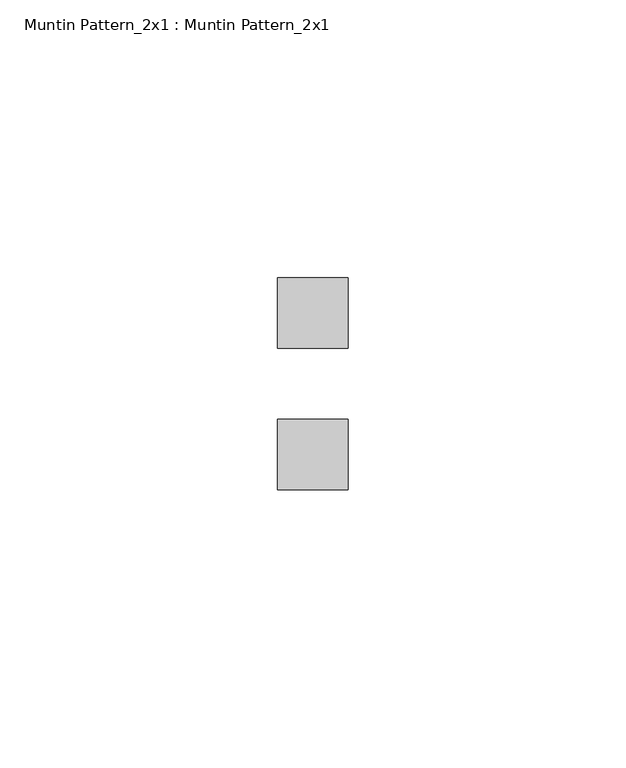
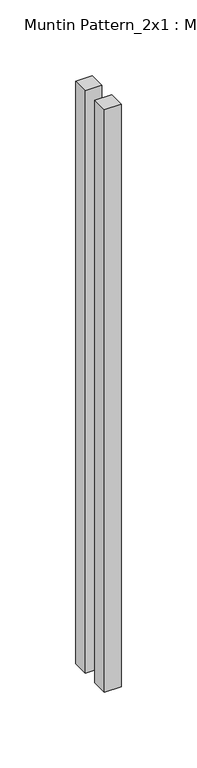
"""IFC4 building model written with IfcOpenShell, lengths in millimetres: proxy geometry, Muntin Pattern_2x1 : Muntin Pattern_2x1."""

from ifc_helpers import new_model, si_unit, origin, origin_with_axes, place, context, project, spatial, polyline, outline, extrude, source, transform, mapped, element, save


def muntin_pattern_2x1_muntin_pattern_2x1_0ce9f3d9(model_context):
    return source(origin(), model_context, "Body", "SweptSolid", [
        extrude(outline(polyline([(-6.35, 19.05), (6.35, 19.05), (6.35, 6.35), (-6.35, 6.35), (-6.35, 19.05)])), origin_with_axes(), (0.0, 0.0, 1.0), 469.9),
        extrude(outline(polyline([(-6.35, -6.35), (6.35, -6.35), (6.35, -19.05), (-6.35, -19.05), (-6.35, -6.35)])), origin_with_axes(), (0.0, 0.0, 1.0), 469.9),
    ])


if __name__ == "__main__":
    model = new_model("IFC4")
    model_context = context("Model", 3, world=origin())
    ifc_project = project(units=[si_unit("LENGTHUNIT", "METRE", prefix="MILLI")], contexts=[model_context])
    site = spatial("IfcSite", under=ifc_project)
    building = spatial("IfcBuilding", under=site)
    placement = place(None, origin())
    muntin_pattern_2x1_muntin_pattern_2x1_shape = muntin_pattern_2x1_muntin_pattern_2x1_0ce9f3d9(model_context)
    element("IfcBuildingElementProxy", 1, Name="Muntin Pattern_2x1 : Muntin Pattern_2x1", ObjectType="Muntin Pattern_2x1 : Muntin Pattern_2x1", at=placement, inside=building, context=model_context, shape_type="MappedRepresentation", body=[
        mapped(muntin_pattern_2x1_muntin_pattern_2x1_shape, transform((0.0, 0.0, 0.0), x_axis=(1.0, 0.0, 0.0), y_axis=(0.0, 1.0, 0.0), z_axis=(0.0, 0.0, 1.0))),
    ])
    save(model, "model.ifc")
